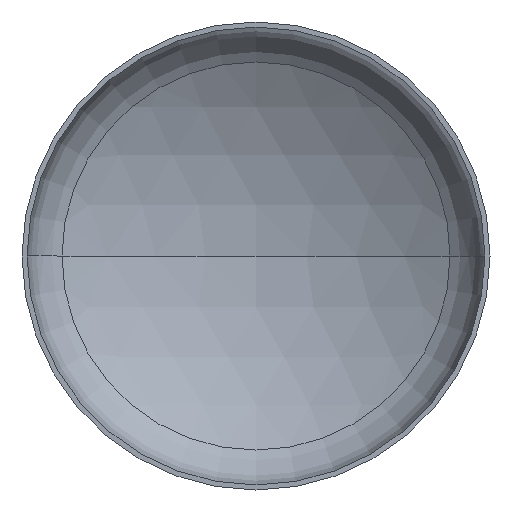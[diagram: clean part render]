
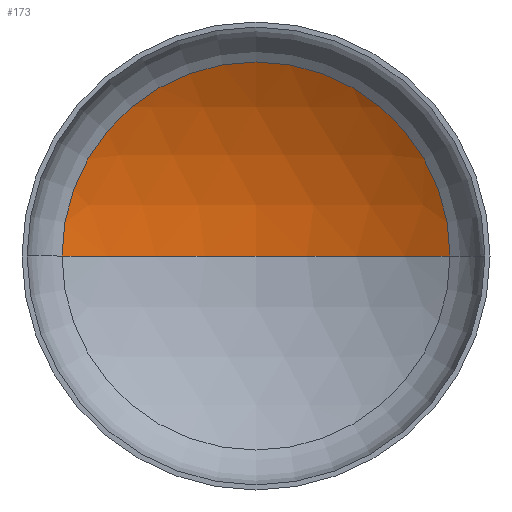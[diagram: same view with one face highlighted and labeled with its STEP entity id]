
A CAD part, front view. The second image highlights one B-rep face of the part: STEP entity #173.
In plain terms, the highlighted spherical face has radius 1760 mm.
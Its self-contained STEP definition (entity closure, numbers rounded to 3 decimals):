
#24 = DIRECTION ( 'NONE',  ( 0., 0., 1. ) ) ;
#31 = CARTESIAN_POINT ( 'NONE',  ( 0., -1139.374, 0. ) ) ;
#43 = AXIS2_PLACEMENT_3D ( 'NONE', #257, #215, #239 ) ;
#47 = ORIENTED_EDGE ( 'NONE', *, *, #119, .T. ) ;
#52 = ORIENTED_EDGE ( 'NONE', *, *, #127, .F. ) ;
#56 = AXIS2_PLACEMENT_3D ( 'NONE', #31, #24, #93 ) ;
#64 = AXIS2_PLACEMENT_3D ( 'NONE', #196, #199, #204 ) ;
#67 = AXIS2_PLACEMENT_3D ( 'NONE', #300, #223, #221 ) ;
#93 = DIRECTION ( 'NONE',  ( 1., 0., 0. ) ) ;
#100 = CARTESIAN_POINT ( 'NONE',  ( -912.225, 365.766, 0. ) ) ;
#114 = EDGE_CURVE ( 'NONE', #140, #117, #229, .T. ) ;
#117 = VERTEX_POINT ( 'NONE', #100 ) ;
#119 = EDGE_CURVE ( 'NONE', #182, #140, #389, .T. ) ;
#127 = EDGE_CURVE ( 'NONE', #182, #117, #277, .T. ) ;
#132 = SPHERICAL_SURFACE ( 'NONE', #43, 1760. ) ;
#140 = VERTEX_POINT ( 'NONE', #195 ) ;
#148 = EDGE_LOOP ( 'NONE', ( #52, #47, #298 ) ) ;
#173 = ADVANCED_FACE ( 'NONE', ( #210 ), #132, .F. ) ;
#182 = VERTEX_POINT ( 'NONE', #375 ) ;
#195 = CARTESIAN_POINT ( 'NONE',  ( 912.225, 365.766, 0. ) ) ;
#196 = CARTESIAN_POINT ( 'NONE',  ( 0., -1139.374, 0. ) ) ;
#199 = DIRECTION ( 'NONE',  ( 0., 0., -1. ) ) ;
#204 = DIRECTION ( 'NONE',  ( -1., 0., 0. ) ) ;
#210 = FACE_OUTER_BOUND ( 'NONE', #148, .T. ) ;
#215 = DIRECTION ( 'NONE',  ( 0., 0., -1. ) ) ;
#221 = DIRECTION ( 'NONE',  ( 1., 0., 0. ) ) ;
#223 = DIRECTION ( 'NONE',  ( 0., -1., 0. ) ) ;
#229 = CIRCLE ( 'NONE', #67, 912.225 ) ;
#239 = DIRECTION ( 'NONE',  ( -1., 0., 0. ) ) ;
#257 = CARTESIAN_POINT ( 'NONE',  ( 0., -1139.374, 0. ) ) ;
#277 = CIRCLE ( 'NONE', #56, 1760. ) ;
#298 = ORIENTED_EDGE ( 'NONE', *, *, #114, .T. ) ;
#300 = CARTESIAN_POINT ( 'NONE',  ( 0., 365.766, 0. ) ) ;
#375 = CARTESIAN_POINT ( 'NONE',  ( 0., 620.626, 0. ) ) ;
#389 = CIRCLE ( 'NONE', #64, 1760. ) ;
